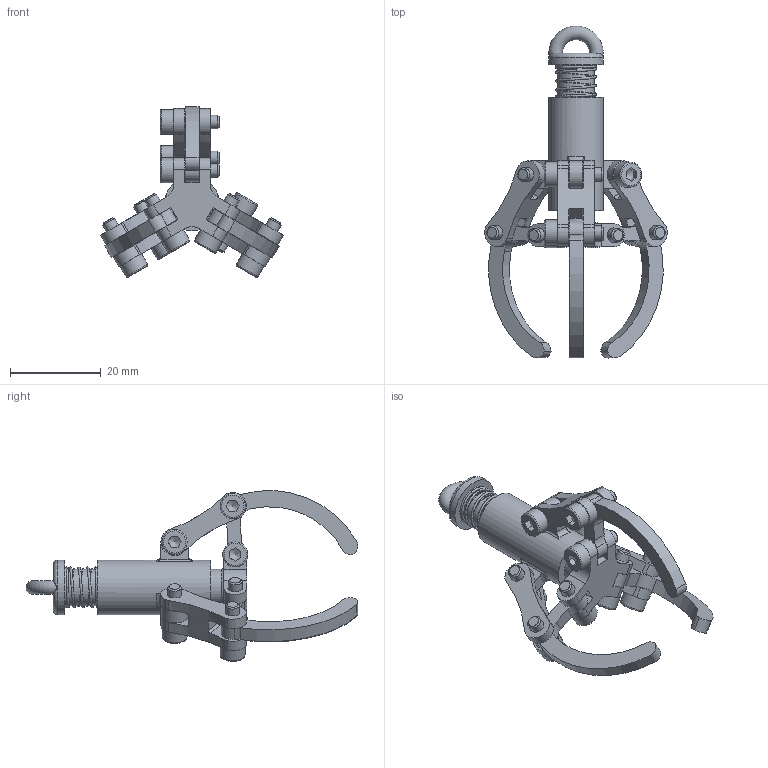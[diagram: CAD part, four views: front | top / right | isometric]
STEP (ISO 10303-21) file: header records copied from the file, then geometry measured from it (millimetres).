
FILE_DESCRIPTION(/* description */ ('','CAx-IF Rec.Pracs.---Representation and Presentation of Product Manufacturing Information (PMI)---4.0---2014-10-13'),/* implementation_level */ '2;1');
FILE_NAME(/* name */ 'Assieme1.stp',/* time_stamp */ '2026-05-11T16:18:58+02:00',/* author */ ('R5800u'),/* organization */ (''),/* preprocessor_version */ 'ST-DEVELOPER v20',/* originating_system */ 'Autodesk Inventor 2025',/* authorisation */ '');
FILE_SCHEMA (('AP242_MANAGED_MODEL_BASED_3D_ENGINEERING_MIM_LF { 1 0 10303 442 1 1 4 }'));
Length unit declared in the file: millimetre
Products named in the file (8): Assieme1; Parte1; Parte3; Parte4; Parte2; AS 1420 - 1973 - M3 x 10; Molla di compressione1; Parte5
Assembly tree (19 placements, depth 2):
  Assieme1
    Parte1
    Parte3
    Parte4  x3
    Parte2  x3
    AS 1420 - 1973 - M3 x 10  x9
    Molla di compressione1
    Parte5
Bounding box: 40.15 x 72.98 x 37.56 mm (x, y, z)
Volume: 8422.4 mm3; surface area: 10460.5 mm2
Topology: 19 solids, 21 shells, 383 faces, 1000 edges, 669 vertices
Faces by surface type: cylinder 166, plane 159, torus 27, cone 20, bspline 11
Full cylindrical faces by diameter (mm): 1.8 x4, 3 x11, 3.2 x27, 5.5 x9, 8 x1, 8.2 x1, 8.5 x2, 12 x2
Entity records: 9566 total; most frequent: CARTESIAN_POINT 3539, DIRECTION 1207, ORIENTED_EDGE 886, AXIS2_PLACEMENT_3D 511, EDGE_CURVE 451, STYLED_ITEM 317, VERTEX_POINT 305, CIRCLE 252
